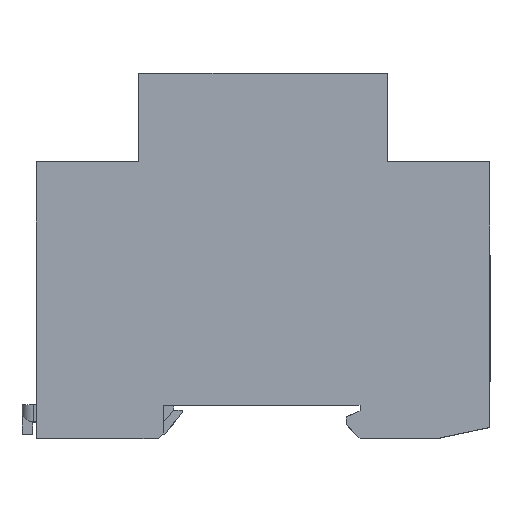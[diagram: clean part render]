
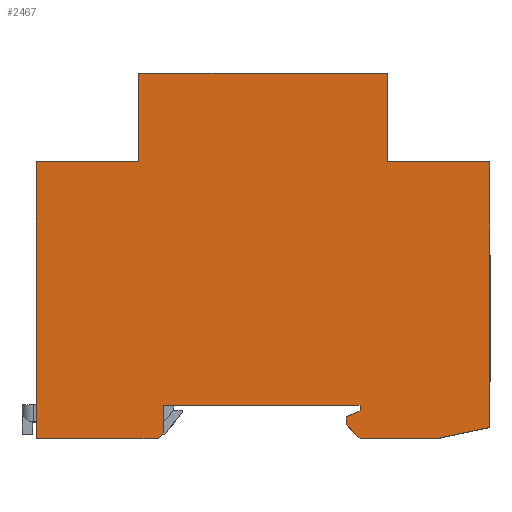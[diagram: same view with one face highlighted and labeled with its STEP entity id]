
A CAD part, top view. The second image highlights one B-rep face of the part: STEP entity #2467.
In plain terms, the highlighted planar face has unit normal (0, 0, 1).
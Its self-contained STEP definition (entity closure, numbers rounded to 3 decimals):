
#66 = EDGE_CURVE ( 'NONE', #13154, #11488, #7322, .T. ) ;
#128 = DIRECTION ( 'NONE',  ( 1., 0., 0. ) ) ;
#173 = DIRECTION ( 'NONE',  ( 1., 0., 0. ) ) ;
#294 = CARTESIAN_POINT ( 'NONE',  ( 15., -30.5, 17.8 ) ) ;
#337 = PLANE ( 'NONE',  #10045 ) ;
#601 = ORIENTED_EDGE ( 'NONE', *, *, #8884, .F. ) ;
#776 = ORIENTED_EDGE ( 'NONE', *, *, #10399, .T. ) ;
#784 = CARTESIAN_POINT ( 'NONE',  ( 17.5, -27., 17.8 ) ) ;
#894 = EDGE_CURVE ( 'NONE', #8774, #10620, #13715, .T. ) ;
#988 = ORIENTED_EDGE ( 'NONE', *, *, #11706, .F. ) ;
#1144 = VERTEX_POINT ( 'NONE', #1287 ) ;
#1218 = DIRECTION ( 'NONE',  ( 0., -1., 0. ) ) ;
#1256 = ORIENTED_EDGE ( 'NONE', *, *, #7081, .F. ) ;
#1264 = CARTESIAN_POINT ( 'NONE',  ( 31.5, -33., 17.8 ) ) ;
#1287 = CARTESIAN_POINT ( 'NONE',  ( -41., -33., 17.8 ) ) ;
#1378 = ORIENTED_EDGE ( 'NONE', *, *, #2359, .T. ) ;
#1451 = CARTESIAN_POINT ( 'NONE',  ( 41., 17., 17.8 ) ) ;
#1537 = CARTESIAN_POINT ( 'NONE',  ( 41., 33., 17.8 ) ) ;
#1607 = VECTOR ( 'NONE', #5015, 1000. ) ;
#1693 = VERTEX_POINT ( 'NONE', #13584 ) ;
#1870 = CARTESIAN_POINT ( 'NONE',  ( 15., -29.1, 17.8 ) ) ;
#2359 = EDGE_CURVE ( 'NONE', #13154, #1144, #14891, .T. ) ;
#2460 = ORIENTED_EDGE ( 'NONE', *, *, #894, .F. ) ;
#2467 = ADVANCED_FACE ( 'NONE', ( #14082 ), #337, .T. ) ;
#2681 = LINE ( 'NONE', #13232, #13259 ) ;
#2683 = ORIENTED_EDGE ( 'NONE', *, *, #16471, .F. ) ;
#2789 = CARTESIAN_POINT ( 'NONE',  ( -41., 17., 17.8 ) ) ;
#2869 = VERTEX_POINT ( 'NONE', #294 ) ;
#3086 = CARTESIAN_POINT ( 'NONE',  ( 41., -33., 17.8 ) ) ;
#3132 = EDGE_CURVE ( 'NONE', #11074, #8774, #10738, .T. ) ;
#3265 = DIRECTION ( 'NONE',  ( 1., 0., 0. ) ) ;
#3295 = CARTESIAN_POINT ( 'NONE',  ( 7., -7., 17.8 ) ) ;
#3306 = EDGE_CURVE ( 'NONE', #5673, #13997, #6570, .T. ) ;
#3584 = CARTESIAN_POINT ( 'NONE',  ( -22.5, 33., 17.8 ) ) ;
#3620 = EDGE_CURVE ( 'NONE', #1693, #13709, #6763, .T. ) ;
#3625 = CARTESIAN_POINT ( 'NONE',  ( 22.5, 33., 17.8 ) ) ;
#3990 = CARTESIAN_POINT ( 'NONE',  ( -19., -33., 17.8 ) ) ;
#4031 = EDGE_CURVE ( 'NONE', #10489, #1693, #7612, .T. ) ;
#4138 = DIRECTION ( 'NONE',  ( 0., 0., 1. ) ) ;
#4160 = CARTESIAN_POINT ( 'NONE',  ( 41., -33., 17.8 ) ) ;
#4194 = VECTOR ( 'NONE', #128, 1000. ) ;
#4250 = CARTESIAN_POINT ( 'NONE',  ( 0., 0., 17.8 ) ) ;
#4542 = DIRECTION ( 'NONE',  ( -0.707, 0.707, 0. ) ) ;
#4872 = VECTOR ( 'NONE', #11469, 1000. ) ;
#5015 = DIRECTION ( 'NONE',  ( 0., -1., 0. ) ) ;
#5168 = VECTOR ( 'NONE', #14016, 1000. ) ;
#5171 = CARTESIAN_POINT ( 'NONE',  ( -22.5, 33., 17.8 ) ) ;
#5425 = EDGE_CURVE ( 'NONE', #1144, #8088, #2681, .T. ) ;
#5673 = VERTEX_POINT ( 'NONE', #9775 ) ;
#5827 = CARTESIAN_POINT ( 'NONE',  ( 41., 17., 17.8 ) ) ;
#5857 = CARTESIAN_POINT ( 'NONE',  ( 15., -29.1, 17.8 ) ) ;
#5869 = CARTESIAN_POINT ( 'NONE',  ( 31.5, -33., 17.8 ) ) ;
#6025 = CARTESIAN_POINT ( 'NONE',  ( -18., -27., 17.8 ) ) ;
#6211 = LINE ( 'NONE', #1870, #7887 ) ;
#6269 = ORIENTED_EDGE ( 'NONE', *, *, #66, .F. ) ;
#6316 = VECTOR ( 'NONE', #11726, 1000. ) ;
#6393 = VERTEX_POINT ( 'NONE', #5857 ) ;
#6570 = LINE ( 'NONE', #3086, #14241 ) ;
#6604 = VECTOR ( 'NONE', #1218, 1000. ) ;
#6736 = LINE ( 'NONE', #4160, #14007 ) ;
#6763 = LINE ( 'NONE', #1451, #12185 ) ;
#6973 = DIRECTION ( 'NONE',  ( 0., 1., 0. ) ) ;
#7081 = EDGE_CURVE ( 'NONE', #11488, #13035, #15010, .T. ) ;
#7194 = ORIENTED_EDGE ( 'NONE', *, *, #5425, .T. ) ;
#7214 = DIRECTION ( 'NONE',  ( -0.979, -0.206, 0. ) ) ;
#7278 = CARTESIAN_POINT ( 'NONE',  ( 15., -30.5, 17.8 ) ) ;
#7322 = LINE ( 'NONE', #9314, #4194 ) ;
#7527 = ORIENTED_EDGE ( 'NONE', *, *, #12920, .T. ) ;
#7612 = LINE ( 'NONE', #3625, #1607 ) ;
#7656 = CARTESIAN_POINT ( 'NONE',  ( 17.5, -28., 17.8 ) ) ;
#7887 = VECTOR ( 'NONE', #6973, 1000. ) ;
#8088 = VERTEX_POINT ( 'NONE', #3990 ) ;
#8188 = ORIENTED_EDGE ( 'NONE', *, *, #3132, .F. ) ;
#8442 = DIRECTION ( 'NONE',  ( -1., 0., 0. ) ) ;
#8476 = LINE ( 'NONE', #5869, #10320 ) ;
#8537 = VECTOR ( 'NONE', #10136, 1000. ) ;
#8708 = LINE ( 'NONE', #10133, #5168 ) ;
#8774 = VERTEX_POINT ( 'NONE', #784 ) ;
#8884 = EDGE_CURVE ( 'NONE', #5673, #2869, #13530, .T. ) ;
#9145 = DIRECTION ( 'NONE',  ( 0., 1., 0. ) ) ;
#9314 = CARTESIAN_POINT ( 'NONE',  ( -41., 17., 17.8 ) ) ;
#9508 = VERTEX_POINT ( 'NONE', #9873 ) ;
#9742 = ORIENTED_EDGE ( 'NONE', *, *, #12678, .T. ) ;
#9746 = CARTESIAN_POINT ( 'NONE',  ( 22.5, 33., 17.8 ) ) ;
#9775 = CARTESIAN_POINT ( 'NONE',  ( 17.5, -33., 17.8 ) ) ;
#9873 = CARTESIAN_POINT ( 'NONE',  ( -18., -32., 17.8 ) ) ;
#10045 = AXIS2_PLACEMENT_3D ( 'NONE', #4250, #4138, #173 ) ;
#10133 = CARTESIAN_POINT ( 'NONE',  ( -18., -33., 17.8 ) ) ;
#10136 = DIRECTION ( 'NONE',  ( 0.915, 0.403, 0. ) ) ;
#10320 = VECTOR ( 'NONE', #7214, 1000. ) ;
#10399 = EDGE_CURVE ( 'NONE', #10489, #13035, #12909, .T. ) ;
#10489 = VERTEX_POINT ( 'NONE', #9746 ) ;
#10534 = CARTESIAN_POINT ( 'NONE',  ( -22.5, 17., 17.8 ) ) ;
#10620 = VERTEX_POINT ( 'NONE', #6025 ) ;
#10713 = DIRECTION ( 'NONE',  ( 0., 1., 0. ) ) ;
#10738 = LINE ( 'NONE', #11813, #15912 ) ;
#11074 = VERTEX_POINT ( 'NONE', #11175 ) ;
#11175 = CARTESIAN_POINT ( 'NONE',  ( 17.5, -28., 17.8 ) ) ;
#11177 = EDGE_CURVE ( 'NONE', #10620, #9508, #8708, .T. ) ;
#11210 = VECTOR ( 'NONE', #8442, 1000. ) ;
#11469 = DIRECTION ( 'NONE',  ( 0.707, 0.707, 0. ) ) ;
#11488 = VERTEX_POINT ( 'NONE', #10534 ) ;
#11535 = ORIENTED_EDGE ( 'NONE', *, *, #3620, .F. ) ;
#11604 = VERTEX_POINT ( 'NONE', #16125 ) ;
#11706 = EDGE_CURVE ( 'NONE', #11604, #13997, #8476, .T. ) ;
#11726 = DIRECTION ( 'NONE',  ( 0., 1., 0. ) ) ;
#11813 = CARTESIAN_POINT ( 'NONE',  ( 17.5, -27., 17.8 ) ) ;
#12185 = VECTOR ( 'NONE', #15965, 1000. ) ;
#12595 = EDGE_LOOP ( 'NONE', ( #7194, #7527, #14795, #2460, #8188, #13124, #2683, #601, #15282, #988, #9742, #11535, #13553, #776, #1256, #6269, #1378 ) ) ;
#12678 = EDGE_CURVE ( 'NONE', #11604, #13709, #6736, .T. ) ;
#12909 = LINE ( 'NONE', #1537, #11210 ) ;
#12920 = EDGE_CURVE ( 'NONE', #8088, #9508, #12990, .T. ) ;
#12990 = LINE ( 'NONE', #3295, #4872 ) ;
#13035 = VERTEX_POINT ( 'NONE', #3584 ) ;
#13056 = CARTESIAN_POINT ( 'NONE',  ( -41., -33., 17.8 ) ) ;
#13124 = ORIENTED_EDGE ( 'NONE', *, *, #16134, .F. ) ;
#13154 = VERTEX_POINT ( 'NONE', #2789 ) ;
#13232 = CARTESIAN_POINT ( 'NONE',  ( 41., -33., 17.8 ) ) ;
#13259 = VECTOR ( 'NONE', #17143, 1000. ) ;
#13530 = LINE ( 'NONE', #7278, #14363 ) ;
#13553 = ORIENTED_EDGE ( 'NONE', *, *, #4031, .F. ) ;
#13584 = CARTESIAN_POINT ( 'NONE',  ( 22.5, 17., 17.8 ) ) ;
#13709 = VERTEX_POINT ( 'NONE', #5827 ) ;
#13715 = LINE ( 'NONE', #15116, #15169 ) ;
#13855 = DIRECTION ( 'NONE',  ( -1., 0., 0. ) ) ;
#13997 = VERTEX_POINT ( 'NONE', #1264 ) ;
#14007 = VECTOR ( 'NONE', #10713, 1000. ) ;
#14016 = DIRECTION ( 'NONE',  ( 0., -1., 0. ) ) ;
#14082 = FACE_OUTER_BOUND ( 'NONE', #12595, .T. ) ;
#14241 = VECTOR ( 'NONE', #3265, 1000. ) ;
#14363 = VECTOR ( 'NONE', #4542, 1000. ) ;
#14525 = LINE ( 'NONE', #7656, #8537 ) ;
#14795 = ORIENTED_EDGE ( 'NONE', *, *, #11177, .F. ) ;
#14891 = LINE ( 'NONE', #13056, #6604 ) ;
#15010 = LINE ( 'NONE', #5171, #6316 ) ;
#15116 = CARTESIAN_POINT ( 'NONE',  ( -18., -27., 17.8 ) ) ;
#15169 = VECTOR ( 'NONE', #13855, 1000. ) ;
#15282 = ORIENTED_EDGE ( 'NONE', *, *, #3306, .T. ) ;
#15912 = VECTOR ( 'NONE', #9145, 1000. ) ;
#15965 = DIRECTION ( 'NONE',  ( 1., 0., 0. ) ) ;
#16125 = CARTESIAN_POINT ( 'NONE',  ( 41., -31., 17.8 ) ) ;
#16134 = EDGE_CURVE ( 'NONE', #6393, #11074, #14525, .T. ) ;
#16471 = EDGE_CURVE ( 'NONE', #2869, #6393, #6211, .T. ) ;
#17143 = DIRECTION ( 'NONE',  ( 1., 0., 0. ) ) ;
